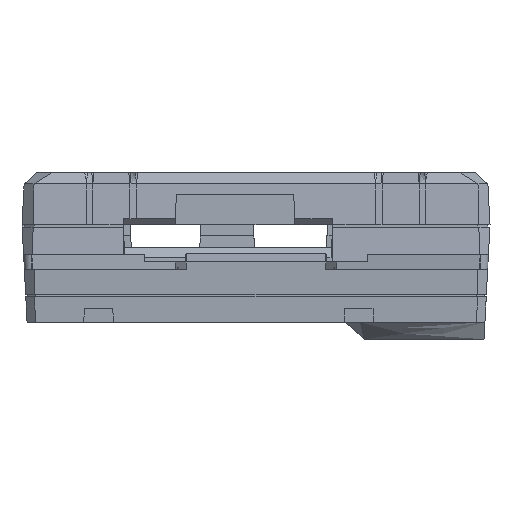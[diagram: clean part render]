
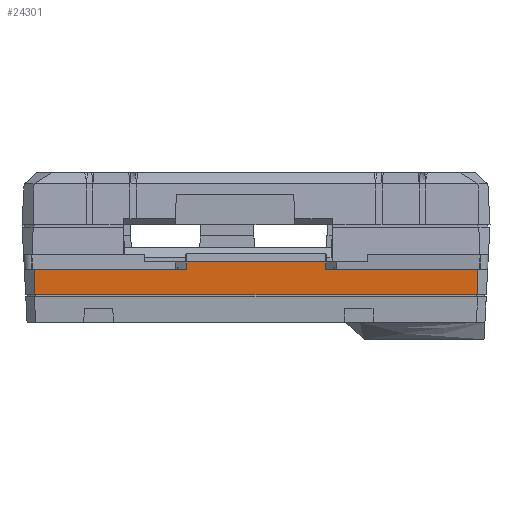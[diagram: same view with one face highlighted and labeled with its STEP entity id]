
A CAD part, left-side view. The second image highlights one B-rep face of the part: STEP entity #24301.
In plain terms, the highlighted planar face has unit normal (-0.999, 0, -0.052).
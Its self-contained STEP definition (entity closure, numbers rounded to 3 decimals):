
#354 = LINE ( 'NONE', #20926, #5446 ) ;
#737 = VERTEX_POINT ( 'NONE', #17908 ) ;
#1784 = ORIENTED_EDGE ( 'NONE', *, *, #24069, .F. ) ;
#1819 = VERTEX_POINT ( 'NONE', #21548 ) ;
#2182 = VECTOR ( 'NONE', #2445, 1000. ) ;
#2445 = DIRECTION ( 'NONE',  ( 0., 1., 0. ) ) ;
#2506 = LINE ( 'NONE', #27019, #5946 ) ;
#3201 = DIRECTION ( 'NONE',  ( -0.052, -0.045, 0.998 ) ) ;
#3225 = ORIENTED_EDGE ( 'NONE', *, *, #21594, .T. ) ;
#4097 = EDGE_CURVE ( 'NONE', #16371, #21739, #13751, .T. ) ;
#5313 = VERTEX_POINT ( 'NONE', #10182 ) ;
#5446 = VECTOR ( 'NONE', #20279, 1000. ) ;
#5946 = VECTOR ( 'NONE', #7401, 1000. ) ;
#5983 = CARTESIAN_POINT ( 'NONE',  ( -16.507, -29.216, -9.4 ) ) ;
#6715 = CARTESIAN_POINT ( 'NONE',  ( -16.796, -8.76, -3.886 ) ) ;
#7401 = DIRECTION ( 'NONE',  ( -0.052, 0.022, 0.998 ) ) ;
#7943 = EDGE_CURVE ( 'NONE', #18745, #1819, #13005, .T. ) ;
#8327 = DIRECTION ( 'NONE',  ( -0.052, -0.022, 0.998 ) ) ;
#8973 = CARTESIAN_POINT ( 'NONE',  ( -16.738, -8.81, -5. ) ) ;
#9266 = VECTOR ( 'NONE', #20763, 1000. ) ;
#9326 = VERTEX_POINT ( 'NONE', #5983 ) ;
#9718 = VECTOR ( 'NONE', #16681, 1000. ) ;
#10182 = CARTESIAN_POINT ( 'NONE',  ( -16.507, 30.316, -9.4 ) ) ;
#10746 = VERTEX_POINT ( 'NONE', #26046 ) ;
#10787 = CARTESIAN_POINT ( 'NONE',  ( -16.507, 0., -9.4 ) ) ;
#13005 = LINE ( 'NONE', #28037, #23789 ) ;
#13726 = ORIENTED_EDGE ( 'NONE', *, *, #4097, .T. ) ;
#13751 = LINE ( 'NONE', #6715, #9718 ) ;
#14324 = CARTESIAN_POINT ( 'NONE',  ( -16.738, 30.52, -5. ) ) ;
#14533 = CARTESIAN_POINT ( 'NONE',  ( -16.686, 30.52, -6. ) ) ;
#15093 = ORIENTED_EDGE ( 'NONE', *, *, #15796, .T. ) ;
#15796 = EDGE_CURVE ( 'NONE', #10746, #16371, #24991, .T. ) ;
#15906 = AXIS2_PLACEMENT_3D ( 'NONE', #16975, #19583, #27424 ) ;
#16371 = VERTEX_POINT ( 'NONE', #17844 ) ;
#16657 = EDGE_LOOP ( 'NONE', ( #13726, #28426, #31874, #1784, #21198, #3225, #24443, #15093 ) ) ;
#16681 = DIRECTION ( 'NONE',  ( -0.052, 0.045, 0.998 ) ) ;
#16975 = CARTESIAN_POINT ( 'NONE',  ( -17., 30.52, 0. ) ) ;
#17299 = FACE_OUTER_BOUND ( 'NONE', #16657, .T. ) ;
#17844 = CARTESIAN_POINT ( 'NONE',  ( -16.686, -8.856, -6. ) ) ;
#17908 = CARTESIAN_POINT ( 'NONE',  ( -16.686, 30.39, -6. ) ) ;
#18745 = VERTEX_POINT ( 'NONE', #21958 ) ;
#19583 = DIRECTION ( 'NONE',  ( -0.999, 0., -0.052 ) ) ;
#20279 = DIRECTION ( 'NONE',  ( 0., -1., 0. ) ) ;
#20763 = DIRECTION ( 'NONE',  ( 0., -1., 0. ) ) ;
#20786 = EDGE_CURVE ( 'NONE', #9326, #10746, #23354, .T. ) ;
#20926 = CARTESIAN_POINT ( 'NONE',  ( -16.686, 0., -6. ) ) ;
#20940 = EDGE_CURVE ( 'NONE', #21739, #1819, #21840, .T. ) ;
#21198 = ORIENTED_EDGE ( 'NONE', *, *, #28713, .F. ) ;
#21548 = CARTESIAN_POINT ( 'NONE',  ( -16.738, 9.91, -5. ) ) ;
#21594 = EDGE_CURVE ( 'NONE', #5313, #9326, #31037, .T. ) ;
#21739 = VERTEX_POINT ( 'NONE', #8973 ) ;
#21840 = LINE ( 'NONE', #14324, #29073 ) ;
#21958 = CARTESIAN_POINT ( 'NONE',  ( -16.686, 9.956, -6. ) ) ;
#23354 = LINE ( 'NONE', #28092, #31684 ) ;
#23789 = VECTOR ( 'NONE', #3201, 1000. ) ;
#24069 = EDGE_CURVE ( 'NONE', #737, #18745, #354, .T. ) ;
#24301 = ADVANCED_FACE ( 'NONE', ( #17299 ), #24494, .T. ) ;
#24443 = ORIENTED_EDGE ( 'NONE', *, *, #20786, .T. ) ;
#24494 = PLANE ( 'NONE',  #15906 ) ;
#24991 = LINE ( 'NONE', #14533, #2182 ) ;
#26046 = CARTESIAN_POINT ( 'NONE',  ( -16.686, -29.29, -6. ) ) ;
#27019 = CARTESIAN_POINT ( 'NONE',  ( -16.998, 30.519, -0.046 ) ) ;
#27424 = DIRECTION ( 'NONE',  ( -0.052, 0., 0.999 ) ) ;
#28037 = CARTESIAN_POINT ( 'NONE',  ( -16.796, 9.86, -3.886 ) ) ;
#28092 = CARTESIAN_POINT ( 'NONE',  ( -16.932, -29.392, -1.297 ) ) ;
#28426 = ORIENTED_EDGE ( 'NONE', *, *, #20940, .T. ) ;
#28713 = EDGE_CURVE ( 'NONE', #5313, #737, #2506, .T. ) ;
#29073 = VECTOR ( 'NONE', #29845, 1000. ) ;
#29845 = DIRECTION ( 'NONE',  ( 0., 1., 0. ) ) ;
#31037 = LINE ( 'NONE', #10787, #9266 ) ;
#31684 = VECTOR ( 'NONE', #8327, 1000. ) ;
#31874 = ORIENTED_EDGE ( 'NONE', *, *, #7943, .F. ) ;
